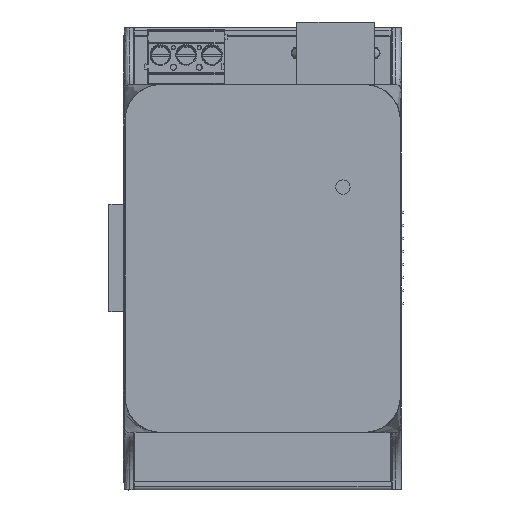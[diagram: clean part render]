
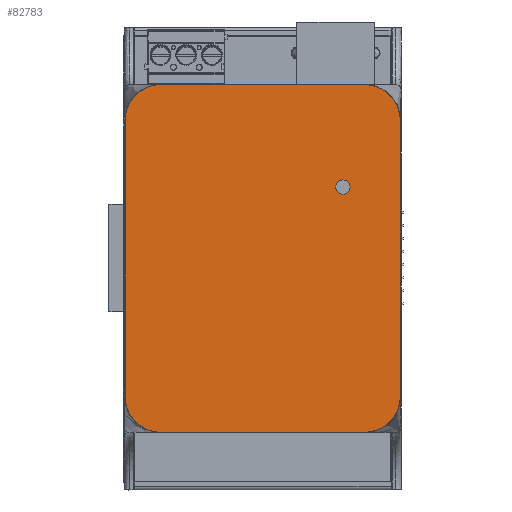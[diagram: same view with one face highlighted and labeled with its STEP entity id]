
A CAD part, top view. The second image highlights one B-rep face of the part: STEP entity #82783.
In plain terms, the highlighted planar face has unit normal (0, 0, 1).
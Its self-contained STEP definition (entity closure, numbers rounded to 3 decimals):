
#707=FACE_BOUND('',#14268,.T.);
#1602=CIRCLE('',#87920,1.4);
#1603=CIRCLE('',#87921,1.4);
#1604=CIRCLE('',#87923,7.);
#1605=CIRCLE('',#87926,7.);
#1606=CIRCLE('',#87927,7.);
#1607=CIRCLE('',#87928,7.);
#5547=PLANE('',#87925);
#9704=FACE_OUTER_BOUND('',#14267,.T.);
#14267=EDGE_LOOP('',(#74052,#74053,#74054,#74055,#74056,#74057,#74058,#74059));
#14268=EDGE_LOOP('',(#74060,#74061));
#23736=LINE('',#142008,#33391);
#23738=LINE('',#142012,#33393);
#23739=LINE('',#142016,#33394);
#23740=LINE('',#142020,#33395);
#33391=VECTOR('',#106789,10.);
#33393=VECTOR('',#106793,10.);
#33394=VECTOR('',#106796,10.);
#33395=VECTOR('',#106799,10.);
#40890=VERTEX_POINT('',#141996);
#40891=VERTEX_POINT('',#141997);
#40892=VERTEX_POINT('',#142001);
#40893=VERTEX_POINT('',#142003);
#40894=VERTEX_POINT('',#142007);
#40895=VERTEX_POINT('',#142011);
#40896=VERTEX_POINT('',#142013);
#40897=VERTEX_POINT('',#142015);
#40898=VERTEX_POINT('',#142017);
#40899=VERTEX_POINT('',#142019);
#52025=EDGE_CURVE('',#40890,#40891,#1602,.T.);
#52026=EDGE_CURVE('',#40891,#40890,#1603,.T.);
#52028=EDGE_CURVE('',#40892,#40893,#1604,.T.);
#52030=EDGE_CURVE('',#40894,#40893,#23736,.T.);
#52032=EDGE_CURVE('',#40892,#40895,#23738,.T.);
#52033=EDGE_CURVE('',#40896,#40895,#1605,.T.);
#52034=EDGE_CURVE('',#40896,#40897,#23739,.T.);
#52035=EDGE_CURVE('',#40898,#40897,#1606,.T.);
#52036=EDGE_CURVE('',#40898,#40899,#23740,.T.);
#52037=EDGE_CURVE('',#40894,#40899,#1607,.T.);
#74052=ORIENTED_EDGE('',*,*,#52028,.F.);
#74053=ORIENTED_EDGE('',*,*,#52032,.T.);
#74054=ORIENTED_EDGE('',*,*,#52033,.F.);
#74055=ORIENTED_EDGE('',*,*,#52034,.T.);
#74056=ORIENTED_EDGE('',*,*,#52035,.F.);
#74057=ORIENTED_EDGE('',*,*,#52036,.T.);
#74058=ORIENTED_EDGE('',*,*,#52037,.F.);
#74059=ORIENTED_EDGE('',*,*,#52030,.T.);
#74060=ORIENTED_EDGE('',*,*,#52025,.T.);
#74061=ORIENTED_EDGE('',*,*,#52026,.T.);
#82783=ADVANCED_FACE('',(#9704,#707),#5547,.T.);
#87920=AXIS2_PLACEMENT_3D('',#141998,#106777,#106778);
#87921=AXIS2_PLACEMENT_3D('',#141999,#106779,#106780);
#87923=AXIS2_PLACEMENT_3D('',#142004,#106784,#106785);
#87925=AXIS2_PLACEMENT_3D('',#142010,#106791,#106792);
#87926=AXIS2_PLACEMENT_3D('',#142014,#106794,#106795);
#87927=AXIS2_PLACEMENT_3D('',#142018,#106797,#106798);
#87928=AXIS2_PLACEMENT_3D('',#142021,#106800,#106801);
#106777=DIRECTION('center_axis',(0.,0.,
-1.));
#106778=DIRECTION('ref_axis',(0.,1.,0.));
#106779=DIRECTION('center_axis',(0.,0.,
-1.));
#106780=DIRECTION('ref_axis',(0.,1.,0.));
#106784=DIRECTION('center_axis',(0.,0.,
-1.));
#106785=DIRECTION('ref_axis',(0.707,-0.707,0.));
#106789=DIRECTION('',(1.,0.,0.));
#106791=DIRECTION('center_axis',(0.,0.,
1.));
#106792=DIRECTION('ref_axis',(-1.,0.,0.));
#106793=DIRECTION('',(0.,1.,0.));
#106794=DIRECTION('center_axis',(0.,0.,
-1.));
#106795=DIRECTION('ref_axis',(0.707,0.707,0.));
#106796=DIRECTION('',(-1.,0.,0.));
#106797=DIRECTION('center_axis',(0.,0.,
-1.));
#106798=DIRECTION('ref_axis',(-0.707,0.707,0.));
#106799=DIRECTION('',(0.,-1.,0.));
#106800=DIRECTION('center_axis',(0.,0.,
-1.));
#106801=DIRECTION('ref_axis',(-0.707,-0.707,0.));
#141996=CARTESIAN_POINT('',(15.57,12.68,46.886));
#141997=CARTESIAN_POINT('',(16.97,14.08,46.886));
#141998=CARTESIAN_POINT('Origin',(15.57,14.08,46.886));
#141999=CARTESIAN_POINT('Origin',(15.57,14.08,46.886));
#142001=CARTESIAN_POINT('',(26.725,-26.534,46.886));
#142003=CARTESIAN_POINT('',(19.725,-33.534,46.886));
#142004=CARTESIAN_POINT('Origin',(19.725,-26.534,46.886));
#142007=CARTESIAN_POINT('',(-19.73,-33.534,46.886));
#142008=CARTESIAN_POINT('',(-26.73,-33.534,46.886));
#142010=CARTESIAN_POINT('Origin',(17.829,6.029,46.886));
#142011=CARTESIAN_POINT('',(26.725,27.011,46.886));
#142012=CARTESIAN_POINT('',(26.725,-33.534,46.886));
#142013=CARTESIAN_POINT('',(19.725,34.011,46.886));
#142014=CARTESIAN_POINT('Origin',(19.725,27.011,46.886));
#142015=CARTESIAN_POINT('',(-19.73,34.011,46.886));
#142016=CARTESIAN_POINT('',(26.725,34.011,46.886));
#142017=CARTESIAN_POINT('',(-26.73,27.011,46.886));
#142018=CARTESIAN_POINT('Origin',(-19.73,27.011,46.886));
#142019=CARTESIAN_POINT('',(-26.73,-26.534,46.886));
#142020=CARTESIAN_POINT('',(-26.73,34.011,46.886));
#142021=CARTESIAN_POINT('Origin',(-19.73,-26.534,46.886));
